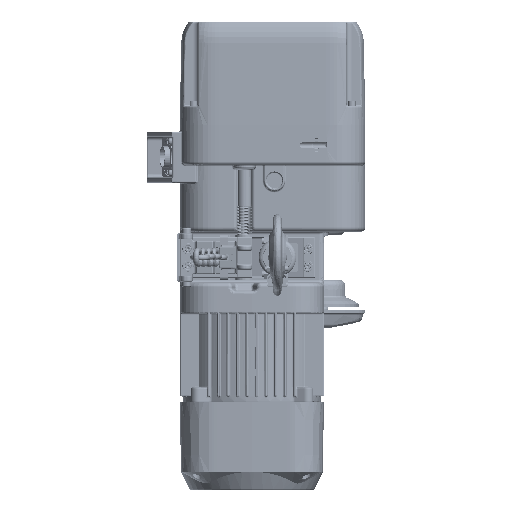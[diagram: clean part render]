
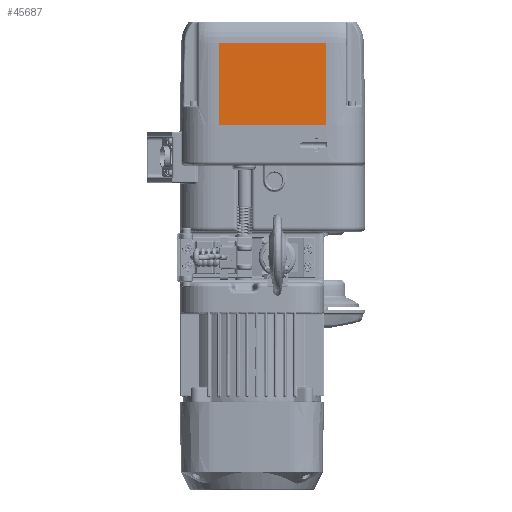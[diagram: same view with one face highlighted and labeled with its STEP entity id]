
A CAD part, front view. The second image highlights one B-rep face of the part: STEP entity #45687.
In plain terms, the highlighted planar face has unit normal (0, -1, 0.018).
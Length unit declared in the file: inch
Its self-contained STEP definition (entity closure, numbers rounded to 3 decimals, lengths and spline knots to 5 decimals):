
#179 = CARTESIAN_POINT ( 'NONE',  ( -2.8108, -4.15354, 0. ) ) ;
#1297 = LINE ( 'NONE', #179, #153059 ) ;
#17988 = EDGE_CURVE ( 'NONE', #56896, #67095, #37798, .T. ) ;
#19017 = ORIENTED_EDGE ( 'NONE', *, *, #161510, .F. ) ;
#31268 = CARTESIAN_POINT ( 'NONE',  ( 0., -4.15354, 0. ) ) ;
#37798 = LINE ( 'NONE', #91018, #202728 ) ;
#45687 = ADVANCED_FACE ( 'NONE', ( #101491 ), #138873, .T. ) ;
#47570 = ORIENTED_EDGE ( 'NONE', *, *, #215142, .T. ) ;
#56896 = VERTEX_POINT ( 'NONE', #182644 ) ;
#60572 = CARTESIAN_POINT ( 'NONE',  ( 0., -4.15354, 0. ) ) ;
#64761 = AXIS2_PLACEMENT_3D ( 'NONE', #31268, #205756, #221655 ) ;
#67095 = VERTEX_POINT ( 'NONE', #145797 ) ;
#75791 = ORIENTED_EDGE ( 'NONE', *, *, #17988, .F. ) ;
#81651 = VECTOR ( 'NONE', #110447, 39.37008 ) ;
#91018 = CARTESIAN_POINT ( 'NONE',  ( 2.8108, -4.15354, 0. ) ) ;
#94110 = VECTOR ( 'NONE', #190998, 39.37008 ) ;
#101491 = FACE_OUTER_BOUND ( 'NONE', #134826, .T. ) ;
#110447 = DIRECTION ( 'NONE',  ( -1., 0., 0. ) ) ;
#120078 = EDGE_CURVE ( 'NONE', #153394, #170535, #1297, .T. ) ;
#121829 = LINE ( 'NONE', #192124, #94110 ) ;
#134826 = EDGE_LOOP ( 'NONE', ( #47570, #203648, #19017, #75791 ) ) ;
#138422 = DIRECTION ( 'NONE',  ( 0., -0.017, -1. ) ) ;
#138873 = PLANE ( 'NONE',  #64761 ) ;
#145797 = CARTESIAN_POINT ( 'NONE',  ( 2.8108, -4.15354, 0. ) ) ;
#153059 = VECTOR ( 'NONE', #138422, 39.37008 ) ;
#153394 = VERTEX_POINT ( 'NONE', #212009 ) ;
#161510 = EDGE_CURVE ( 'NONE', #67095, #170535, #215844, .T. ) ;
#170535 = VERTEX_POINT ( 'NONE', #210361 ) ;
#178286 = DIRECTION ( 'NONE',  ( 0., -0.017, -1. ) ) ;
#182644 = CARTESIAN_POINT ( 'NONE',  ( 2.8108, -4.07838, 4.30633 ) ) ;
#190998 = DIRECTION ( 'NONE',  ( -1., 0., 0. ) ) ;
#192124 = CARTESIAN_POINT ( 'NONE',  ( 2.8108, -4.07838, 4.30633 ) ) ;
#202728 = VECTOR ( 'NONE', #178286, 39.37008 ) ;
#203648 = ORIENTED_EDGE ( 'NONE', *, *, #120078, .T. ) ;
#205756 = DIRECTION ( 'NONE',  ( 0., -1., 0.017 ) ) ;
#210361 = CARTESIAN_POINT ( 'NONE',  ( -2.8108, -4.15354, 0. ) ) ;
#212009 = CARTESIAN_POINT ( 'NONE',  ( -2.8108, -4.07838, 4.30633 ) ) ;
#215142 = EDGE_CURVE ( 'NONE', #56896, #153394, #121829, .T. ) ;
#215844 = LINE ( 'NONE', #60572, #81651 ) ;
#221655 = DIRECTION ( 'NONE',  ( 0., -0.017, -1. ) ) ;
